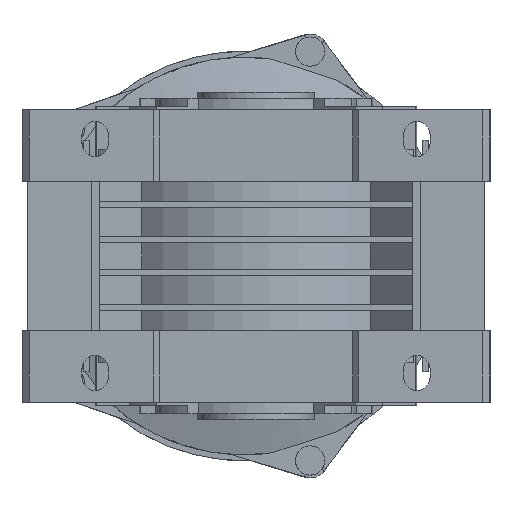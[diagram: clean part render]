
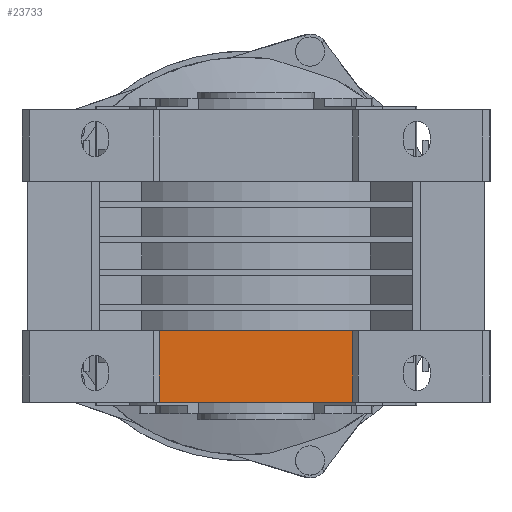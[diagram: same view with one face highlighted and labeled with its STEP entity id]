
A CAD part, left-side view. The second image highlights one B-rep face of the part: STEP entity #23733.
In plain terms, the highlighted planar face has unit normal (-1, 0, 0) as drawn and (1, 0, 0) by its records, which use the part's own axes.
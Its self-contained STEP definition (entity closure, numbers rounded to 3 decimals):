
#2908=ORIENTED_EDGE('',*,*,#6549,.F.);
#2909=ORIENTED_EDGE('',*,*,#7194,.F.);
#2910=ORIENTED_EDGE('',*,*,#7166,.T.);
#2911=ORIENTED_EDGE('',*,*,#7195,.T.);
#6549=EDGE_CURVE('',#8947,#8948,#10623,.T.);
#7166=EDGE_CURVE('',#9366,#9365,#11141,.T.);
#7194=EDGE_CURVE('',#9366,#8947,#11163,.T.);
#7195=EDGE_CURVE('',#9365,#8948,#11164,.T.);
#8947=VERTEX_POINT('',#31910);
#8948=VERTEX_POINT('',#31912);
#9365=VERTEX_POINT('',#33165);
#9366=VERTEX_POINT('',#33167);
#10623=LINE('',#31911,#12431);
#11141=LINE('',#33166,#12949);
#11163=LINE('',#33222,#12971);
#11164=LINE('',#33224,#12972);
#12431=VECTOR('',#26692,1000.);
#12949=VECTOR('',#27816,1000.);
#12971=VECTOR('',#27866,1000.);
#12972=VECTOR('',#27869,1000.);
#14171=EDGE_LOOP('',(#2908,#2909,#2910,#2911));
#15314=FACE_BOUND('',#14171,.T.);
#16378=PLANE('',#24928);
#23733=ADVANCED_FACE('',(#15314),#16378,.T.);
#24928=AXIS2_PLACEMENT_3D('',#33223,#27867,#27868);
#26692=DIRECTION('',(0.,1.,0.));
#27816=DIRECTION('',(0.,1.,0.));
#27866=DIRECTION('',(0.,0.,1.));
#27867=DIRECTION('',(1.,0.,0.));
#27868=DIRECTION('',(0.,0.,-1.));
#27869=DIRECTION('',(0.,0.,1.));
#31910=CARTESIAN_POINT('',(176.,-37.22,50.));
#31911=CARTESIAN_POINT('',(176.,-37.22,50.));
#31912=CARTESIAN_POINT('',(176.,28.78,50.));
#33165=CARTESIAN_POINT('',(176.,28.78,25.5));
#33166=CARTESIAN_POINT('',(176.,-37.22,25.5));
#33167=CARTESIAN_POINT('',(176.,-37.22,25.5));
#33222=CARTESIAN_POINT('',(176.,-37.22,25.5));
#33223=CARTESIAN_POINT('',(176.,-37.22,25.5));
#33224=CARTESIAN_POINT('',(176.,28.78,25.5));
